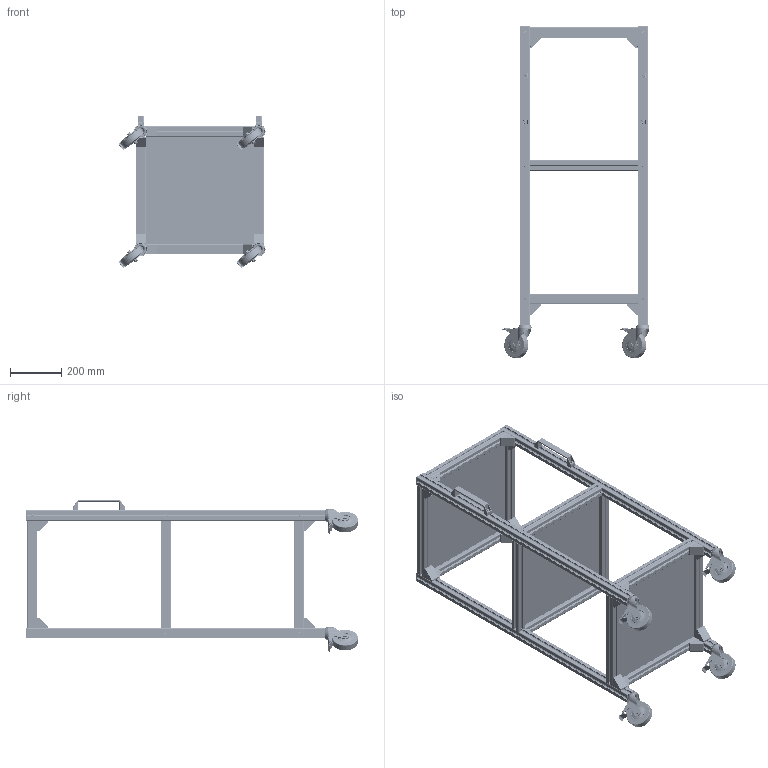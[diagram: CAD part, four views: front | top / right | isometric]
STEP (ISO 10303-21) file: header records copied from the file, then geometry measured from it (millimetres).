
FILE_DESCRIPTION (( 'STEP AP214' ), '1' );
FILE_NAME ('RSI 1008_500õ500õ1700_3.STEP', '2024-11-29T09:40:11', ( 'Àëåêñåé' ), ( '' ), 'SwSTEP 2.0', 'SolidWorks 2022', '' );
FILE_SCHEMA (( 'AUTOMOTIVE_DESIGN' ));
Length unit declared in the file: millimetre
Products named in the file (26): Гайка самозажимная DIN 985_М8; Болт M8 ГОСТ 7798-70_Болт М8-6gх50ГОСТ 7798-70; RSI935100М12-1; RSI935100М12-5; OB-4040L Профиль 40х40 мм. Паз 8 мм (Анодированный)_L=1160 мм; 5026_5026 (М8х20, паз 8); Винт ISO7380 (полусфера) кл. пр. 10.9_М8х20; Винт DIN7991 (потай) кл. пр. 8.8_М8x25; 1038 Угловой соединитель 40х40_Угловой соединитель 40х40, паз 8 и 10; Полка для RSI 1008_500х500х1700; Винт DIN912 (полуцилиндр) кл. пр. 8.8_М8х16; 4003; RSI935100М12; Гайка М8 DIN 6923_Резьба; OB-4040L Профиль 40х40 мм. Паз 8 мм (Анодированный)_L=420 мм; RSI 1008_500х500х1700_3; 1038cap_Заглушка к угловому соединителю 40х40 мм; 4044_L=420 мм; RSI935100М12-2; RSI935100М12-4; 5260_Сухарь пазовый с пружинкой, паз 8, М8, серия 40; RSI935100М12-3; 3011
Assembly tree (180 placements, depth 3):
  RSI 1008_500х500х1700_3
    OB-4040L Профиль 40х40 мм. Паз 8 мм (Анодированный)_L=1160 мм
    OB-4040L Профиль 40х40 мм. Паз 8 мм (Анодированный)_L=1160 мм
    OB-4040L Профиль 40х40 мм. Паз 8 мм (Анодированный)_L=1160 мм
    OB-4040L Профиль 40х40 мм. Паз 8 мм (Анодированный)_L=1160 мм
    RSI935100М12  x4
      RSI935100М12-1
      RSI935100М12-2
      RSI935100М12-3
      RSI935100М12-4
      Болт M8 ГОСТ 7798-70_Болт М8-6gх50ГОСТ 7798-70
      Гайка самозажимная DIN 985_М8
      RSI935100М12-5
    OB-4040L Профиль 40х40 мм. Паз 8 мм (Анодированный)_L=420 мм  x12
    Винт DIN7991 (потай) кл. пр. 8.8_М8x25  x4
    Винт ISO7380 (полусфера) кл. пр. 10.9_М8х20  x23
    3011  x2
    Винт DIN912 (полуцилиндр) кл. пр. 8.8_М8х16  x4
    5260_Сухарь пазовый с пружинкой, паз 8, М8, серия 40  x4
    4003  x4
    1038cap_Заглушка к угловому соединителю 40х40 мм  x16
    1038 Угловой соединитель 40х40_Угловой соединитель 40х40, паз 8 и 10  x16
    5026_5026 (М8х20, паз 8)  x32
    Гайка М8 DIN 6923_Резьба  x32
    4044_L=420 мм  x12
    Полка для RSI 1008_500х500х1700  x3
Bounding box: 573.26 x 1293.67 x 592.66 mm (x, y, z)
Volume: 6755555.7 mm3; surface area: 7398005.3 mm2
Topology: 568 solids, 568 shells, 25249 faces, 65228 edges, 41307 vertices
Faces by surface type: plane 12438, cylinder 6945, bspline 3322, torus 1158, cone 788, sphere 598
Entity records: 146456 total; most frequent: CARTESIAN_POINT 64360, ORIENTED_EDGE 17002, DIRECTION 13767, EDGE_CURVE 8501, VERTEX_POINT 5478, VECTOR 4887, LINE 4887, AXIS2_PLACEMENT_3D 4440
